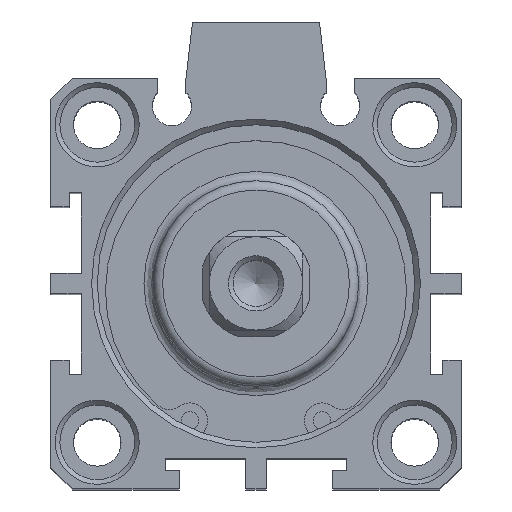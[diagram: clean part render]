
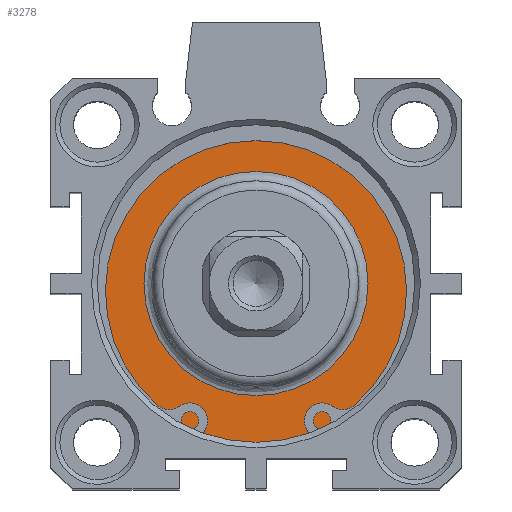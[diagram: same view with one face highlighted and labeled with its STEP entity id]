
A CAD part, top view. The second image highlights one B-rep face of the part: STEP entity #3278.
In plain terms, the highlighted planar face has unit normal (0, 0, 1).
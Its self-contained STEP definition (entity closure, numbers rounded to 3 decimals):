
#3227=CARTESIAN_POINT('',(-3.726,11.88,60.3));
#3228=VERTEX_POINT('',#3227);
#3229=CARTESIAN_POINT('',(-3.726,-0.12,60.3));
#3230=DIRECTION('',(0.0,0.0,1.0));
#3231=DIRECTION('',(0.0,-1.0,0.0));
#3232=AXIS2_PLACEMENT_3D('',#3229,#3230,#3231);
#3233=CIRCLE('',#3232,12.);
#3234=EDGE_CURVE('',#3228,#3228,#3233,.T.);
#3259=CARTESIAN_POINT('',(-3.726,13.88,60.3));
#3260=DIRECTION('',(0.0,0.0,1.0));
#3261=DIRECTION('',(1.0,0.0,0.0));
#3262=AXIS2_PLACEMENT_3D('',#3259,#3260,#3261);
#3263=PLANE('',#3262);
#3264=CARTESIAN_POINT('',(-3.726,16.88,60.3));
#3265=VERTEX_POINT('',#3264);
#3266=CARTESIAN_POINT('',(-3.726,-0.12,60.3));
#3267=DIRECTION('',(0.0,0.0,-1.0));
#3268=DIRECTION('',(0.0,1.0,0.0));
#3269=AXIS2_PLACEMENT_3D('',#3266,#3267,#3268);
#3270=CIRCLE('',#3269,17.);
#3271=EDGE_CURVE('',#3265,#3265,#3270,.T.);
#3272=ORIENTED_EDGE('',*,*,#3271,.F.);
#3273=EDGE_LOOP('',(#3272));
#3274=FACE_OUTER_BOUND('',#3273,.T.);
#3275=ORIENTED_EDGE('',*,*,#3234,.F.);
#3276=EDGE_LOOP('',(#3275));
#3277=FACE_BOUND('',#3276,.T.);
#3278=ADVANCED_FACE('',(#3274,#3277),#3263,.T.);
